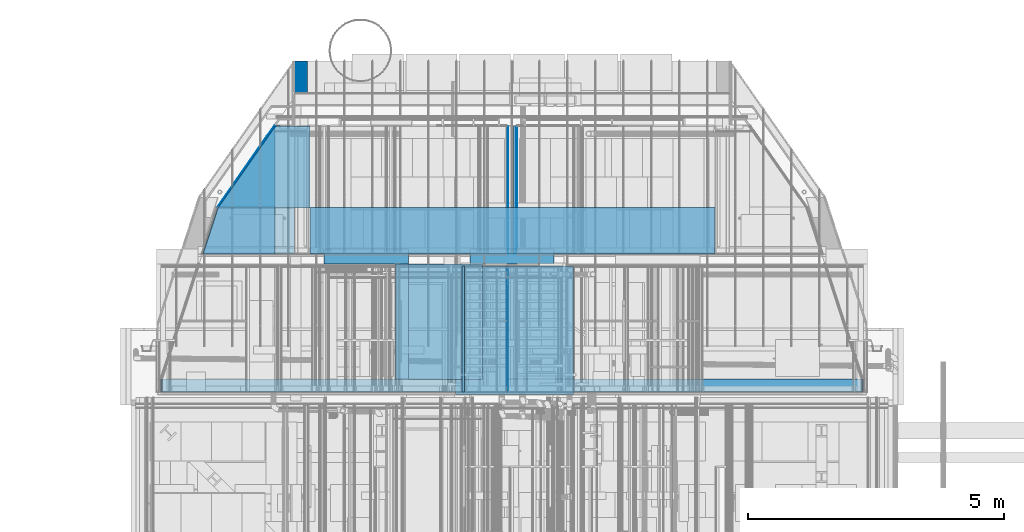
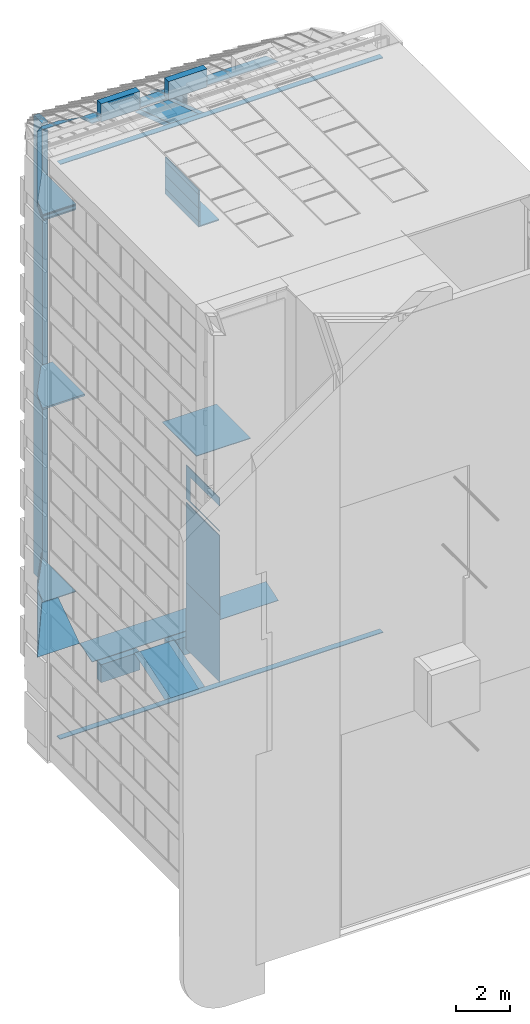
# One storey, part 24 of 583: 46 walls, 3 openings.
"""IFC2X3 building model written with IfcOpenShell, lengths in metres."""

import ifcopenshell
import ifcopenshell.guid

model = None  # the IFC model being written
_history = None  # IfcOwnerHistory: only IFC2X3 demands one
_inside = {}  # id of a spatial element -> (the spatial element, [elements in it])
_under = {}  # id of a project, library or spatial element -> (it, [spatial elements below it])
_declared = {}  # id of a project -> (the project, [libraries it declares])
_typed = {}  # id of a type object -> (the type object, [elements of that type])
_made_of = {}  # id of a material, layer set ... -> (it, [elements and type objects made of it])


def new_model(schema):
    """Start an empty IFC model of exactly this schema.

    Asked for "IFC4X3", IfcOpenShell would pick the latest addendum, in which some entities
    have other attributes; the version numbers below select the first issue.
    IFC2X3 requires an IfcOwnerHistory on every rooted entity: one is made here for all.
    """
    global model, _history
    if schema == "IFC4X3":
        model = ifcopenshell.file(schema_version=(4, 3, 0, 0))
    else:
        model = ifcopenshell.file(schema=schema)
    _inside.clear()
    _under.clear()
    _declared.clear()
    _typed.clear()
    _made_of.clear()
    _history = None
    if model.schema == "IFC2X3":
        org = make("IfcOrganization", Name="unknown")
        user = make(
            "IfcPersonAndOrganization",
            ThePerson=make("IfcPerson", FamilyName="unknown"),
            TheOrganization=org,
        )
        app = make(
            "IfcApplication",
            ApplicationDeveloper=org,
            Version="unknown",
            ApplicationFullName="unknown",
            ApplicationIdentifier="unknown",
        )
        _history = make(
            "IfcOwnerHistory",
            OwningUser=user,
            OwningApplication=app,
            ChangeAction="ADDED",
            CreationDate=0,
        )
    return model


def make(cls, **values):
    """One entity of the class cls with the attributes given. An attribute that is None is left unset."""
    return model.create_entity(
        cls, **{name: value for name, value in values.items() if value is not None}
    )


def entity(cls, *values):
    """Any entity or typed value of the class cls, its attributes in the order of the schema. None: left unset."""
    e = model.create_entity(cls)
    for i, value in enumerate(values):
        if value is not None:
            e[i] = value
    return e


def rooted(cls, **values):
    """An entity with a GlobalId (a new one), such as an element, a storey or a relation."""
    return make(cls, GlobalId=ifcopenshell.guid.new(), OwnerHistory=_history, **values)


def si_unit(unit_type, name, prefix=None):
    """IfcSIUnit, for example si_unit("LENGTHUNIT", "METRE", prefix="MILLI")."""
    return make("IfcSIUnit", UnitType=unit_type, Prefix=prefix, Name=name)


def converted_unit(unit_type, name, factor, base, dimensions=None, offset=None):
    """IfcConversionBasedUnit, such as the inch: factor (a typed value) times the base unit."""
    return make(
        "IfcConversionBasedUnit"
        if offset is None
        else "IfcConversionBasedUnitWithOffset",
        ConversionOffset=offset,
        Dimensions=None
        if dimensions is None
        else entity("IfcDimensionalExponents", *dimensions),
        UnitType=unit_type,
        Name=name,
        ConversionFactor=make(
            "IfcMeasureWithUnit", ValueComponent=factor, UnitComponent=base
        ),
    )


def derived_unit(unit_type, elements):
    """IfcDerivedUnit: a product of units, each with its exponent."""
    return make(
        "IfcDerivedUnit",
        Elements=[
            make("IfcDerivedUnitElement", Unit=unit, Exponent=power)
            for unit, power in elements
        ],
        UnitType=unit_type,
    )


def money_unit(currency):
    """IfcMonetaryUnit."""
    return make("IfcMonetaryUnit", Currency=currency)


def assignment(units):
    """IfcUnitAssignment: the units of a project."""
    return None if units is None else make("IfcUnitAssignment", Units=units)


def point(xyz):
    """IfcCartesianPoint."""
    return None if xyz is None else make("IfcCartesianPoint", Coordinates=xyz)


def direction(xyz):
    """IfcDirection."""
    return None if xyz is None else make("IfcDirection", DirectionRatios=xyz)


def frame(location, z_axis=None, x_axis=None):
    """IfcAxis2Placement3D, a coordinate frame: its origin and axes. An axis left out is left unset."""
    return make(
        "IfcAxis2Placement3D",
        Location=point(location),
        Axis=direction(z_axis),
        RefDirection=direction(x_axis),
    )


def frame_2d(location, x_axis=None):
    """IfcAxis2Placement2D, a coordinate frame in the plane: its origin and x axis."""
    return make(
        "IfcAxis2Placement2D", Location=point(location), RefDirection=direction(x_axis)
    )


def origin_with_axes():
    """The frame at (0, 0, 0) with the z axis (0, 0, 1) and the x axis (1, 0, 0) written out."""
    return frame((0.0, 0.0, 0.0), z_axis=(0.0, 0.0, 1.0), x_axis=(1.0, 0.0, 0.0))


def place(relative_to, where):
    """IfcLocalPlacement: puts the frame where relative to a parent placement (None: the world)."""
    return make(
        "IfcLocalPlacement", PlacementRelTo=relative_to, RelativePlacement=where
    )


def context(
    kind, dimensions, precision=None, world=None, true_north=None, identifier=None
):
    """IfcGeometricRepresentationContext, for example the 3D "Model" context."""
    return make(
        "IfcGeometricRepresentationContext",
        ContextIdentifier=identifier,
        ContextType=kind,
        CoordinateSpaceDimension=dimensions,
        Precision=precision,
        WorldCoordinateSystem=world,
        TrueNorth=true_north,
    )


def subcontext(parent, identifier, kind, view, scale=None):
    """IfcGeometricRepresentationSubContext, for example "Body" below "Model"."""
    return make(
        "IfcGeometricRepresentationSubContext",
        ContextIdentifier=identifier,
        ContextType=kind,
        ParentContext=parent,
        TargetScale=scale,
        TargetView=view,
    )


def project(units=None, contexts=None):
    """IfcProject with its units and contexts."""
    return rooted(
        "IfcProject",
        Name="project",
        RepresentationContexts=contexts,
        UnitsInContext=assignment(units),
    )


def spatial(cls, under=None, at=None, **own):
    """A site, building, storey or space (cls), placed at a placement, below another one or the project."""
    s = rooted(cls, ObjectPlacement=at, **own)
    if under is not None:
        _under.setdefault(under.id(), (under, []))[1].append(s)
    return s


def polyline(points):
    """IfcPolyline through the points."""
    return make("IfcPolyline", Points=[point(p) for p in points])


def profile(cls, at=None, kind="AREA", **sizes):
    """A parametric profile (cls). Its sizes go by their IFC names, for example OverallWidth=200.0."""
    return make(cls, ProfileType=kind, Position=at, **sizes)


def rectangle(**sizes):
    """IfcRectangleProfileDef."""
    return profile("IfcRectangleProfileDef", **sizes)


def outline(outer, holes=None, kind="AREA"):
    """IfcArbitraryClosedProfileDef: a profile drawn as a closed curve; with holes, ...WithVoids."""
    if holes is None:
        return make("IfcArbitraryClosedProfileDef", ProfileType=kind, OuterCurve=outer)
    return make(
        "IfcArbitraryProfileDefWithVoids",
        ProfileType=kind,
        OuterCurve=outer,
        InnerCurves=holes,
    )


def extrude(swept, where, along, depth):
    """IfcExtrudedAreaSolid: the profile swept, set in the frame where, extruded along a direction by depth."""
    return make(
        "IfcExtrudedAreaSolid",
        SweptArea=swept,
        Position=where,
        ExtrudedDirection=direction(along),
        Depth=depth,
    )


def clip(a, b, op="DIFFERENCE"):
    """IfcBooleanClippingResult: the solid a cut by the half space b."""
    return make(
        "IfcBooleanClippingResult", Operator=op, FirstOperand=a, SecondOperand=b
    )


def halfspace(plane, agree):
    """IfcHalfSpaceSolid: all space on one side of the plane z = 0 of the frame plane."""
    return make(
        "IfcHalfSpaceSolid",
        BaseSurface=make("IfcPlane", Position=plane),
        AgreementFlag=agree,
    )


def shape(context_of_items, identifier, shape_type, items):
    """IfcShapeRepresentation: the items that make up one representation, for example the "Body"."""
    return make(
        "IfcShapeRepresentation",
        ContextOfItems=context_of_items,
        RepresentationIdentifier=identifier,
        RepresentationType=shape_type,
        Items=items,
    )


def material(Name=None, Category=None):
    """IfcMaterial."""
    return make("IfcMaterial", Name=Name, Category=Category)


def made_of(thing, what):
    """Note that an element or type object is made of a material, layer set ...; save() writes the relation."""
    if what is not None:
        _made_of.setdefault(what.id(), (what, []))[1].append(thing)
    return thing


def type_object(cls, material=None, **own):
    """A type object (cls), such as IfcWallType, which elements share."""
    return made_of(rooted(cls, **own), material)


def element(
    cls,
    number,
    at=None,
    inside=None,
    cuts=None,
    type_object=None,
    material=None,
    context=None,
    identifier="Body",
    shape_type=None,
    held_by="IfcProductDefinitionShape",
    body=None,
    shapes=None,
    **own,
):
    """One element of the class cls, such as IfcWall. Its Tag is "e" and its number.

    at: its placement. inside: the storey or other place that contains it. cuts: it is an
    opening in that element (IfcRelVoidsElement). A single representation is given by context,
    identifier, shape_type and body (its items); several are given by shapes. held_by: the class
    of the entity that holds the representations. save() writes the other relations.
    """
    e = rooted(cls, Tag="e%d" % number, ObjectPlacement=at, **own)
    if body is not None:
        shapes = [shape(context, identifier, shape_type, body)]
    if shapes is not None:
        e.Representation = make(held_by, Representations=shapes)
    if inside is not None:
        _inside.setdefault(inside.id(), (inside, []))[1].append(e)
    if cuts is not None:
        rooted(
            "IfcRelVoidsElement", RelatingBuildingElement=cuts, RelatedOpeningElement=e
        )
    if type_object is not None:
        _typed.setdefault(type_object.id(), (type_object, []))[1].append(e)
    return made_of(e, material)


def aggregate(whole, parts):
    """IfcRelAggregates: a whole, such as a stair, and the parts it consists of."""
    return rooted("IfcRelAggregates", RelatingObject=whole, RelatedObjects=parts)


def save(model, path):
    """Write the relations noted so far, then the file.

    IfcRelAggregates (storeys below a building ...), IfcRelContainedInSpatialStructure (elements
    in a storey), IfcRelDefinesByType, IfcRelAssociatesMaterial and IfcRelDeclares: one each for
    every whole, place, type object, material and project.
    """
    for whole, parts in _under.values():
        aggregate(whole, parts)
    for where, things in _inside.values():
        rooted(
            "IfcRelContainedInSpatialStructure",
            RelatedElements=things,
            RelatingStructure=where,
        )
    for kind, things in _typed.values():
        rooted("IfcRelDefinesByType", RelatedObjects=things, RelatingType=kind)
    for what, things in _made_of.values():
        rooted("IfcRelAssociatesMaterial", RelatedObjects=things, RelatingMaterial=what)
    for by, libraries in _declared.values():
        rooted("IfcRelDeclares", RelatingContext=by, RelatedDefinitions=libraries)
    model.write(path)


model = new_model("IFC2X3")

# Units and contexts
model_context = context("Model", 3, precision=1e-05, world=origin_with_axes(), true_north=direction((0.0, 1.0)))
body_context = subcontext(model_context, "Body", "Model", "MODEL_VIEW", scale=1.0)
ifc_project = project(units=[si_unit("LENGTHUNIT", "METRE"), si_unit("AREAUNIT", "SQUARE_METRE"), si_unit("VOLUMEUNIT", "CUBIC_METRE"), si_unit("ABSORBEDDOSEUNIT", "GRAY"), si_unit("AMOUNTOFSUBSTANCEUNIT", "MOLE"), si_unit("DOSEEQUIVALENTUNIT", "SIEVERT"), si_unit("ELECTRICCAPACITANCEUNIT", "FARAD"), si_unit("ELECTRICCHARGEUNIT", "COULOMB"), si_unit("ELECTRICCONDUCTANCEUNIT", "SIEMENS"), si_unit("ELECTRICCURRENTUNIT", "AMPERE"), si_unit("ELECTRICRESISTANCEUNIT", "OHM"), si_unit("ELECTRICVOLTAGEUNIT", "VOLT"), si_unit("ENERGYUNIT", "JOULE"), si_unit("FORCEUNIT", "NEWTON"), si_unit("FREQUENCYUNIT", "HERTZ"), si_unit("ILLUMINANCEUNIT", "LUX"), si_unit("INDUCTANCEUNIT", "HENRY"), si_unit("LUMINOUSFLUXUNIT", "LUMEN"), si_unit("LUMINOUSINTENSITYUNIT", "CANDELA"), si_unit("MAGNETICFLUXDENSITYUNIT", "TESLA"), si_unit("MAGNETICFLUXUNIT", "WEBER"), si_unit("MASSUNIT", "GRAM"), converted_unit("PLANEANGLEUNIT", "degree", entity("IfcReal", 0.0174532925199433), si_unit("PLANEANGLEUNIT", "RADIAN"), dimensions=[0, 0, 0, 0, 0, 0, 0]), si_unit("POWERUNIT", "WATT"), si_unit("PRESSUREUNIT", "PASCAL"), si_unit("RADIOACTIVITYUNIT", "BECQUEREL"), si_unit("SOLIDANGLEUNIT", "STERADIAN"), si_unit("THERMODYNAMICTEMPERATUREUNIT", "KELVIN"), si_unit("TIMEUNIT", "SECOND"), derived_unit("ACCELERATIONUNIT", [(si_unit("LENGTHUNIT", "METRE"), 1), (si_unit("TIMEUNIT", "SECOND"), -2)]), derived_unit("ANGULARVELOCITYUNIT", [(converted_unit("PLANEANGLEUNIT", "degree", entity("IfcReal", 0.0174532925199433), si_unit("PLANEANGLEUNIT", "RADIAN"), dimensions=[0, 0, 0, 0, 0, 0, 0]), 1), (si_unit("TIMEUNIT", "SECOND"), -1)]), derived_unit("CURVATUREUNIT", [(converted_unit("PLANEANGLEUNIT", "degree", entity("IfcReal", 0.0174532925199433), si_unit("PLANEANGLEUNIT", "RADIAN"), dimensions=[0, 0, 0, 0, 0, 0, 0]), 1), (si_unit("LENGTHUNIT", "METRE"), -1)]), derived_unit("DYNAMICVISCOSITYUNIT", [(si_unit("PRESSUREUNIT", "PASCAL"), 1), (si_unit("TIMEUNIT", "SECOND"), 1)]), derived_unit("HEATFLUXDENSITYUNIT", [(si_unit("POWERUNIT", "WATT"), 1), (si_unit("LENGTHUNIT", "METRE"), -2)]), derived_unit("HEATINGVALUEUNIT", [(si_unit("ENERGYUNIT", "JOULE"), 1), (si_unit("MASSUNIT", "GRAM"), -1)]), derived_unit("INTEGERCOUNTRATEUNIT", [(si_unit("TIMEUNIT", "SECOND"), -1)]), derived_unit("IONCONCENTRATIONUNIT", [(si_unit("MASSUNIT", "GRAM"), 1), (si_unit("VOLUMEUNIT", "CUBIC_METRE"), -1)]), derived_unit("ISOTHERMALMOISTURECAPACITYUNIT", [(si_unit("VOLUMEUNIT", "CUBIC_METRE"), 1), (si_unit("MASSUNIT", "GRAM"), -1)]), derived_unit("KINEMATICVISCOSITYUNIT", [(si_unit("AREAUNIT", "SQUARE_METRE"), 1), (si_unit("TIMEUNIT", "SECOND"), -1)]), derived_unit("LINEARFORCEUNIT", [(si_unit("FORCEUNIT", "NEWTON"), 1), (si_unit("LENGTHUNIT", "METRE"), -1)]), derived_unit("LINEARMOMENTUNIT", [(si_unit("FORCEUNIT", "NEWTON"), 1), (si_unit("LENGTHUNIT", "METRE"), -1)]), derived_unit("LINEARSTIFFNESSUNIT", [(si_unit("FORCEUNIT", "NEWTON"), 1), (si_unit("LENGTHUNIT", "METRE"), -1)]), derived_unit("LINEARVELOCITYUNIT", [(si_unit("LENGTHUNIT", "METRE"), 1), (si_unit("TIMEUNIT", "SECOND"), -1)]), derived_unit("LUMINOUSINTENSITYDISTRIBUTIONUNIT", [(si_unit("LUMINOUSINTENSITYUNIT", "CANDELA"), 1), (si_unit("LUMINOUSFLUXUNIT", "LUMEN"), -1)]), derived_unit("MASSDENSITYUNIT", [(si_unit("MASSUNIT", "GRAM"), 1), (si_unit("VOLUMEUNIT", "CUBIC_METRE"), -1)]), derived_unit("MASSFLOWRATEUNIT", [(si_unit("MASSUNIT", "GRAM"), 1), (si_unit("TIMEUNIT", "SECOND"), -1)]), derived_unit("MASSPERLENGTHUNIT", [(si_unit("MASSUNIT", "GRAM"), 1), (si_unit("LENGTHUNIT", "METRE"), -1)]), derived_unit("MODULUSOFELASTICITYUNIT", [(si_unit("FORCEUNIT", "NEWTON"), 1), (si_unit("AREAUNIT", "SQUARE_METRE"), -1)]), derived_unit("MODULUSOFLINEARSUBGRADEREACTIONUNIT", [(si_unit("FORCEUNIT", "NEWTON"), 1), (si_unit("LENGTHUNIT", "METRE"), -2)]), derived_unit("MODULUSOFROTATIONALSUBGRADEREACTIONUNIT", [(si_unit("FORCEUNIT", "NEWTON"), 1), (si_unit("LENGTHUNIT", "METRE"), 1)]), derived_unit("MODULUSOFSUBGRADEREACTIONUNIT", [(si_unit("FORCEUNIT", "NEWTON"), 1), (si_unit("VOLUMEUNIT", "CUBIC_METRE"), -1)]), derived_unit("MOISTUREDIFFUSIVITYUNIT", [(si_unit("VOLUMEUNIT", "CUBIC_METRE"), 1), (si_unit("TIMEUNIT", "SECOND"), -1)]), derived_unit("MOLECULARWEIGHTUNIT", [(si_unit("MASSUNIT", "GRAM"), 1), (si_unit("AMOUNTOFSUBSTANCEUNIT", "MOLE"), -1)]), derived_unit("PLANARFORCEUNIT", [(si_unit("FORCEUNIT", "NEWTON"), 1), (si_unit("LENGTHUNIT", "METRE"), -2)]), derived_unit("ROTATIONALFREQUENCYUNIT", [(si_unit("TIMEUNIT", "SECOND"), -1)]), derived_unit("ROTATIONALMASSUNIT", [(si_unit("MASSUNIT", "GRAM"), 1), (si_unit("LENGTHUNIT", "METRE"), 2)]), derived_unit("ROTATIONALSTIFFNESSUNIT", [(si_unit("FORCEUNIT", "NEWTON"), 1), (si_unit("LENGTHUNIT", "METRE"), 1), (converted_unit("PLANEANGLEUNIT", "degree", entity("IfcReal", 0.0174532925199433), si_unit("PLANEANGLEUNIT", "RADIAN"), dimensions=[0, 0, 0, 0, 0, 0, 0]), -1)]), derived_unit("SECTIONAREAINTEGRALUNIT", [(si_unit("LENGTHUNIT", "METRE"), 5)]), derived_unit("SECTIONMODULUSUNIT", [(si_unit("LENGTHUNIT", "METRE"), 3)]), derived_unit("SHEARMODULUSUNIT", [(si_unit("FORCEUNIT", "NEWTON"), 1), (si_unit("AREAUNIT", "SQUARE_METRE"), -1)]), derived_unit("SOUNDPOWERUNIT", [(si_unit("ENERGYUNIT", "JOULE"), 1), (si_unit("TIMEUNIT", "SECOND"), -1)]), derived_unit("SPECIFICHEATCAPACITYUNIT", [(si_unit("FORCEUNIT", "NEWTON"), 1), (si_unit("MASSUNIT", "GRAM"), -1), (si_unit("THERMODYNAMICTEMPERATUREUNIT", "KELVIN"), -1)]), derived_unit("TEMPERATUREGRADIENTUNIT", [(si_unit("THERMODYNAMICTEMPERATUREUNIT", "KELVIN"), 1), (si_unit("LENGTHUNIT", "METRE"), -1)]), derived_unit("THERMALADMITTANCEUNIT", [(si_unit("POWERUNIT", "WATT"), 1), (si_unit("AREAUNIT", "SQUARE_METRE"), -1), (si_unit("THERMODYNAMICTEMPERATUREUNIT", "KELVIN"), -1)]), derived_unit("THERMALCONDUCTANCEUNIT", [(si_unit("POWERUNIT", "WATT"), 1), (si_unit("LENGTHUNIT", "METRE"), -1), (si_unit("THERMODYNAMICTEMPERATUREUNIT", "KELVIN"), -1)]), derived_unit("THERMALEXPANSIONCOEFFICIENTUNIT", [(si_unit("THERMODYNAMICTEMPERATUREUNIT", "KELVIN"), -1)]), derived_unit("THERMALRESISTANCEUNIT", [(si_unit("AREAUNIT", "SQUARE_METRE"), 1), (si_unit("POWERUNIT", "WATT"), -1)]), derived_unit("THERMALTRANSMITTANCEUNIT", [(si_unit("POWERUNIT", "WATT"), 1), (si_unit("AREAUNIT", "SQUARE_METRE"), -1), (si_unit("THERMODYNAMICTEMPERATUREUNIT", "KELVIN"), -1)]), derived_unit("TORQUEUNIT", [(si_unit("FORCEUNIT", "NEWTON"), 1), (si_unit("LENGTHUNIT", "METRE"), 1)]), derived_unit("VAPORPERMEABILITYUNIT", [(si_unit("MASSUNIT", "GRAM"), 1), (si_unit("TIMEUNIT", "SECOND"), -1)]), derived_unit("VOLUMETRICFLOWRATEUNIT", [(si_unit("VOLUMEUNIT", "CUBIC_METRE"), 1), (si_unit("TIMEUNIT", "SECOND"), -1)]), derived_unit("WARPINGCONSTANTUNIT", [(si_unit("LENGTHUNIT", "METRE"), 6)]), derived_unit("WARPINGMOMENTUNIT", [(si_unit("FORCEUNIT", "NEWTON"), 1), (si_unit("LENGTHUNIT", "METRE"), 2)]), money_unit("GBP")], contexts=[model_context])

# Site, building, storey
site_placement = place(None, origin_with_axes())
site = spatial("IfcSite", under=ifc_project, at=site_placement, Name="Site", CompositionType="ELEMENT")
building_placement = place(site_placement, origin_with_axes())
building = spatial("IfcBuilding", under=site, at=building_placement, Name="Building01", CompositionType="ELEMENT")
storey_placement = place(building_placement, frame((0.0, 0.0, 20.78), z_axis=(0.0, 0.0, 1.0), x_axis=(1.0, 0.0, 0.0)))
storey = spatial("IfcBuildingStorey", under=building, at=storey_placement, Name="RL", CompositionType="ELEMENT", Elevation=20.78)

# Walls
ifc_material_1 = material(Name="A_BSUK_Roofs")
wall_type_1 = type_object("IfcWallType", Name="A-Walls-ExternalBlock", PredefinedType="NOTDEFINED")
wall_1_placement = place(storey_placement, frame((8.274915, 17.78, 5.700061), z_axis=(-1.0, 0.0, 0.0), x_axis=(0.0, 0.0, -1.0)))
element("IfcWall", 1, at=wall_1_placement, inside=storey, type_object=wall_type_1, material=ifc_material_1, Name="7C", ObjectType="A-Walls-ExternalBlock", context=body_context, shape_type="SweptSolid", body=[
    extrude(rectangle(XDim=0.81, YDim=0.3, at=frame_2d((0.405, 0.15), x_axis=(1.0, 0.0))), origin_with_axes(), (0.0, 0.0, 1.0), 1.65),
])
wall_2_placement = place(storey_placement, frame((5.424915, 17.779999, 5.700061), z_axis=(-1.0, 0.0, 0.0), x_axis=(0.0, 0.0, -1.0)))
element("IfcWall", 2, at=wall_2_placement, inside=storey, type_object=wall_type_1, material=ifc_material_1, Name="7C", ObjectType="A-Walls-ExternalBlock", context=body_context, shape_type="SweptSolid", body=[
    extrude(rectangle(XDim=0.81, YDim=0.299999, at=frame_2d((0.405, 0.15), x_axis=(1.0, 0.0))), origin_with_axes(), (0.0, 0.0, 1.0), 1.65),
])
for number, where, z_axis, x_axis, name in (
    (3, (8.274915, 17.78, -19.470096), (-1.0, 0.0, 0.0), (0.0, 0.0, -1.0), "7C"),
    (4, (5.424915, 17.779999, -19.470096), (-1.0, 0.0, 0.0), (0.0, 0.0, -1.0), "7C"),
):
    element("IfcWall", number, at=place(storey_placement, frame(where, z_axis=z_axis, x_axis=x_axis)), inside=storey, type_object=wall_type_1, material=ifc_material_1, Name=name, ObjectType="A-Walls-ExternalBlock", context=body_context, shape_type="SweptSolid", body=[
        extrude(rectangle(XDim=0.81, YDim=0.3, at=frame_2d((0.405, 0.15), x_axis=(1.0, 0.0))), origin_with_axes(), (0.0, 0.0, 1.0), 1.65),
    ])
wall_3_placement = place(storey_placement, frame((3.449939, 20.818, 3.000061), z_axis=(0.0, 1.0, 0.0), x_axis=(0.0, 0.0, -1.0)))
element("IfcWall", 5, at=wall_3_placement, inside=storey, type_object=wall_type_1, material=ifc_material_1, Name="A-Walls-ExternalBlock", ObjectType="A-Walls-ExternalBlock", context=body_context, shape_type="SweptSolid", body=[
    extrude(rectangle(XDim=20.580061, YDim=0.25, at=frame_2d((10.29003, 0.125), x_axis=(-1.0, 0.0))), origin_with_axes(), (0.0, 0.0, 1.0), 0.637),
])
ifc_material_2 = material(Name="A_BSUK_WallsInternal")
wall_type_2 = type_object("IfcWallType", Name="A-Walls-Internal", PredefinedType="NOTDEFINED")
wall_4_placement = place(storey_placement, frame((6.624965, 15.23, -20.2012), z_axis=(0.0, 0.95105652, 0.30901699), x_axis=(-1.0, 0.0, 0.0)))
element("IfcWall", 6, at=wall_4_placement, inside=storey, type_object=wall_type_2, material=ifc_material_2, Name="7C", ObjectType="A-Walls-Internal", context=body_context, shape_type="SweptSolid", body=[
    extrude(rectangle(XDim=1.20005, YDim=0.015, at=frame_2d((0.600025, 0.0075), x_axis=(-1.0, 0.0))), origin_with_axes(), (0.0, 0.0, 1.0), 2.373987),
])
wall_5_placement = place(storey_placement, frame((6.624964, 15.23, 5.6212), z_axis=(0.0, 0.95105652, -0.30901699), x_axis=(-1.0, 0.0, 0.0)))
element("IfcWall", 7, at=wall_5_placement, inside=storey, type_object=wall_type_2, material=ifc_material_2, Name="7C", ObjectType="A-Walls-Internal", context=body_context, shape_type="SweptSolid", body=[
    extrude(rectangle(XDim=1.200049, YDim=0.015, at=frame_2d((0.600024, -0.0075), x_axis=(-1.0, 0.0))), origin_with_axes(), (0.0, 0.0, 1.0), 2.373987),
])
wall_6_placement = place(storey_placement, frame((7.334915, 14.98, 0.73844), z_axis=(0.0, 1.0, 0.0), x_axis=(-1.0, 0.0, 0.0)))
element("IfcWall", 8, at=wall_6_placement, inside=storey, type_object=wall_type_2, material=ifc_material_2, Name="A-Walls-Internal", ObjectType="A-Walls-Internal", context=body_context, shape_type="SweptSolid", body=[
    extrude(outline(polyline([(0.81483, 0.05), (0.0, 0.05), (0.0, 0.0), (0.86483, 0.0), (0.81483, 0.05)])), origin_with_axes(), (0.0, 0.0, 1.0), 2.468),
])
wall_7_placement = place(storey_placement, frame((6.470085, 14.98, 0.73844), z_axis=(0.0, 1.0, 0.0), x_axis=(0.0, 0.0, 1.0)))
element("IfcWall", 9, at=wall_7_placement, inside=storey, type_object=wall_type_2, material=ifc_material_2, Name="A-Walls-Internal", ObjectType="A-Walls-Internal", context=body_context, shape_type="SweptSolid", body=[
    extrude(outline(polyline([(0.05, 0.05), (0.0, 0.0), (0.255191, 0.0), (0.255191, 0.05), (0.05, 0.05)])), origin_with_axes(), (0.0, 0.0, 1.0), 2.468),
])
for number, where, z_axis, x_axis, name in (
    (10, (6.470085, 14.98, 0.993631), (0.0, 1.0, 0.0), (0.0, 0.0, 1.0), "A-Walls-Internal"),
    (11, (6.470085, 14.98, 1.593631), (0.0, 1.0, 0.0), (0.0, 0.0, 1.0), "A-Walls-Internal"),
):
    element("IfcWall", number, at=place(storey_placement, frame(where, z_axis=z_axis, x_axis=x_axis)), inside=storey, type_object=wall_type_2, material=ifc_material_2, Name=name, ObjectType="A-Walls-Internal", context=body_context, shape_type="SweptSolid", body=[
        extrude(rectangle(XDim=0.6, YDim=0.05, at=frame_2d((0.3, 0.025), x_axis=(1.0, 0.0))), origin_with_axes(), (0.0, 0.0, 1.0), 2.468),
    ])
wall_8_placement = place(storey_placement, frame((6.470085, 14.98, 2.193631), z_axis=(0.0, 1.0, 0.0), x_axis=(0.0, 0.0, 1.0)))
element("IfcWall", 12, at=wall_8_placement, inside=storey, type_object=wall_type_2, material=ifc_material_2, Name="A-Walls-Internal", ObjectType="A-Walls-Internal", context=body_context, shape_type="SweptSolid", body=[
    extrude(rectangle(XDim=0.205191, YDim=0.05, at=frame_2d((0.102595, 0.025), x_axis=(-1.0, 0.0))), origin_with_axes(), (0.0, 0.0, 1.0), 2.468),
])
wall_9_placement = place(storey_placement, frame((6.624964, 15.229557, 5.605572), z_axis=(0.0, 0.95105652, -0.30901699), x_axis=(-1.0, 0.0, 0.0)))
element("IfcWall", 13, at=wall_9_placement, inside=storey, type_object=wall_type_2, material=ifc_material_2, Name="7C", ObjectType="A-Walls-Internal", context=body_context, shape_type="SweptSolid", body=[
    extrude(outline(polyline([(1.200049, 0.0), (0.0, 0.0), (-0.25, -0.015), (1.450049, -0.015), (1.200049, 0.0)])), origin_with_axes(), (0.0, 0.0, 1.0), 2.373987),
])
wall_10_placement = place(storey_placement, frame((6.624965, 15.229557, -20.185572), z_axis=(0.0, 0.95105652, 0.30901699), x_axis=(-1.0, 0.0, 0.0)))
element("IfcWall", 14, at=wall_10_placement, inside=storey, type_object=wall_type_2, material=ifc_material_2, Name="7C", ObjectType="A-Walls-Internal", context=body_context, shape_type="SweptSolid", body=[
    extrude(outline(polyline([(1.45005, 0.015), (-0.25, 0.015), (0.0, 0.0), (1.20005, 0.0), (1.45005, 0.015)])), origin_with_axes(), (0.0, 0.0, 1.0), 2.373987),
])
wall_11_placement = place(storey_placement, frame((14.3212, 14.98, -20.2012), z_axis=(0.0, 1.0, 0.0), x_axis=(-1.0, 0.0, 0.0)))
element("IfcWall", 15, at=wall_11_placement, inside=storey, type_object=wall_type_2, material=ifc_material_2, Name="7C", ObjectType="A-Walls-Internal", context=body_context, shape_type="SweptSolid", body=[
    extrude(rectangle(XDim=13.7424, YDim=0.015, at=frame_2d((6.8712, 0.0075), x_axis=(-1.0, 0.0))), origin_with_axes(), (0.0, 0.0, 1.0), 0.25),
])
wall_12_placement = place(storey_placement, frame((14.3062, 14.98, 5.6212), z_axis=(0.0, 1.0, 0.0), x_axis=(-1.0, 0.0, 0.0)))
element("IfcWall", 16, at=wall_12_placement, inside=storey, type_object=wall_type_2, material=ifc_material_2, Name="7C", ObjectType="A-Walls-Internal", context=body_context, shape_type="SweptSolid", body=[
    extrude(rectangle(XDim=13.7124, YDim=0.015, at=frame_2d((6.8562, -0.0075), x_axis=(-1.0, 0.0))), origin_with_axes(), (0.0, 0.0, 1.0), 0.25),
])
wall_13_placement = place(storey_placement, frame((14.3062, 14.98, -20.1862), z_axis=(0.0, 1.0, 0.0), x_axis=(-1.0, 0.0, 0.0)))
element("IfcWall", 17, at=wall_13_placement, inside=storey, type_object=wall_type_2, material=ifc_material_2, Name="7C", ObjectType="A-Walls-Internal", context=body_context, shape_type="SweptSolid", body=[
    extrude(rectangle(XDim=13.7124, YDim=0.015, at=frame_2d((6.8562, 0.0075), x_axis=(-1.0, 0.0))), origin_with_axes(), (0.0, 0.0, 1.0), 0.25),
])
wall_14_placement = place(storey_placement, frame((14.2912, 14.98, 5.6062), z_axis=(0.0, 1.0, 0.0), x_axis=(-1.0, 0.0, 0.0)))
element("IfcWall", 18, at=wall_14_placement, inside=storey, type_object=wall_type_2, material=ifc_material_2, Name="7C", ObjectType="A-Walls-Internal", context=body_context, shape_type="SweptSolid", body=[
    extrude(rectangle(XDim=13.6824, YDim=0.015, at=frame_2d((6.8412, -0.0075), x_axis=(-1.0, 0.0))), origin_with_axes(), (0.0, 0.0, 1.0), 0.25),
])
for number, where, z_axis, x_axis, name in (
    (19, (8.65, 14.93, -9.48), (0.0, 1.0, 0.0), (-1.0, 0.0, 0.0), "A-Walls-Internal"),
    (20, (8.65, 14.93, -9.465), (0.0, 1.0, 0.0), (-1.0, 0.0, 0.0), "A-Walls-Internal"),
):
    element("IfcWall", number, at=place(storey_placement, frame(where, z_axis=z_axis, x_axis=x_axis)), inside=storey, type_object=wall_type_2, material=ifc_material_2, Name=name, ObjectType="A-Walls-Internal", context=body_context, shape_type="SweptSolid", body=[
        extrude(rectangle(XDim=2.3, YDim=0.015, at=frame_2d((1.15, 0.0075), x_axis=(-1.0, 0.0))), origin_with_axes(), (0.0, 0.0, 1.0), 2.518),
    ])
wall_15_placement = place(storey_placement, frame((3.499939, 17.68, -19.380471), z_axis=(0.0, 0.95105669, 0.30901647), x_axis=(1.0, 0.0, 0.0)))
element("IfcWall", 21, at=wall_15_placement, inside=storey, type_object=wall_type_2, material=ifc_material_2, Name="7C", ObjectType="A-Walls-Internal", context=body_context, shape_type="SweptSolid", body=[
    extrude(rectangle(XDim=7.915923, YDim=0.015, at=frame_2d((3.957962, 0.0075), x_axis=(1.0, 0.0))), origin_with_axes(), (0.0, 0.0, 1.0), 0.955),
])
wall_16_placement = place(storey_placement, frame((1.695959, 18.588254, -19.084043), z_axis=(0.0, 0.81915311, 0.57357491), x_axis=(1.0, 0.0, 0.0)))
element("IfcWall", 22, at=wall_16_placement, inside=storey, type_object=wall_type_2, material=ifc_material_2, Name="7C", ObjectType="A-Walls-Internal", context=body_context, shape_type="Clipping", body=[
    clip(extrude(outline(polyline([(-0.012287, 0.015), (0.0, 0.0), (1.80398, 0.0), (1.80398, 0.015), (-0.012287, 0.015)])), origin_with_axes(), (0.0, 0.0, 1.0), 1.943), halfspace(frame((0.0, 0.0, 0.0), z_axis=(0.70710678, 0.57922872, -0.40557871), x_axis=(-0.63368777, 0.77358892, 0.0)), True)),
])
wall_17_placement = place(storey_placement, frame((1.695959, 18.588254, -15.719976), z_axis=(0.57357491, 0.81915311, 0.0), x_axis=(0.0, 0.0, -1.0)))
element("IfcWall", 23, at=wall_17_placement, inside=storey, type_object=wall_type_2, material=ifc_material_2, Name="7C", ObjectType="A-Walls-Internal", context=body_context, shape_type="Clipping", body=[
    clip(extrude(outline(polyline([(3.376355, 0.015), (0.0, 0.015), (0.0, 0.0), (3.364068, 0.0), (3.376355, 0.015)])), origin_with_axes(), (0.0, 0.0, 1.0), 1.943), halfspace(frame((1.682034, -1.377843, 0.964772), z_axis=(-0.70710678, 0.57922872, -0.40557871), x_axis=(-0.63368777, -0.77358892, 0.0)), True)),
])
wall_18_placement = place(storey_placement, frame((3.499939, 17.675383, -19.3662), z_axis=(0.0, 0.95105669, 0.30901647), x_axis=(1.0, 0.0, 0.0)))
element("IfcWall", 24, at=wall_18_placement, inside=storey, type_object=wall_type_2, material=ifc_material_2, Name="7C", ObjectType="A-Walls-Internal", context=body_context, shape_type="SweptSolid", body=[
    extrude(rectangle(XDim=7.915923, YDim=0.015, at=frame_2d((3.957962, 0.0075), x_axis=(1.0, 0.0))), origin_with_axes(), (0.0, 0.0, 1.0), 0.955014),
])
wall_19_placement = place(storey_placement, frame((1.708246, 18.579651, -15.719976), z_axis=(0.57357491, 0.81915311, 0.0), x_axis=(0.0, 0.0, -1.0)))
element("IfcWall", 25, at=wall_19_placement, inside=storey, type_object=wall_type_2, material=ifc_material_2, Name="7C", ObjectType="A-Walls-Internal", context=body_context, shape_type="Clipping", body=[
    clip(extrude(outline(polyline([(3.364068, 0.015), (0.0, 0.015), (0.0, 0.0), (3.35178, 0.0), (3.364068, 0.015)])), origin_with_axes(), (0.0, 0.0, 1.0), 1.943037), halfspace(frame((1.67589, -1.372811, 0.961249), z_axis=(-0.70710678, 0.57922872, -0.40557871), x_axis=(-0.63368777, -0.77358892, 0.0)), True)),
])
wall_20_placement = place(storey_placement, frame((1.712289, 18.579651, -19.071756), z_axis=(0.0, 0.81915311, 0.57357491), x_axis=(1.0, 0.0, 0.0)))
element("IfcWall", 26, at=wall_20_placement, inside=storey, type_object=wall_type_2, material=ifc_material_2, Name="7C", ObjectType="A-Walls-Internal", context=body_context, shape_type="Clipping", body=[
    clip(extrude(outline(polyline([(-0.01633, 0.015), (-0.004042, 0.0), (1.787651, 0.0), (1.787651, 0.015), (-0.01633, 0.015)])), origin_with_axes(), (0.0, 0.0, 1.0), 1.943037), halfspace(frame((-0.002021, -0.001656, 0.001159), z_axis=(0.70710678, 0.57922872, -0.40557871), x_axis=(-0.63368777, 0.77358892, 0.0)), True)),
])
wall_21_placement = place(storey_placement, frame((3.499939, 17.68, 4.800471), z_axis=(0.0, 0.95105669, -0.30901647), x_axis=(-1.0, 0.0, 0.0)))
element("IfcWall", 27, at=wall_21_placement, inside=storey, type_object=wall_type_2, material=ifc_material_2, Name="7C", ObjectType="A-Walls-Internal", context=body_context, shape_type="SweptSolid", body=[
    extrude(rectangle(XDim=7.915923, YDim=0.015, at=frame_2d((-3.957962, 0.0075), x_axis=(-1.0, 0.0))), origin_with_axes(), (0.0, 0.0, 1.0), 0.955),
])
wall_22_placement = place(storey_placement, frame((1.695959, 18.588254, 4.504043), z_axis=(0.0, 0.81915311, -0.57357491), x_axis=(-1.0, 0.0, 0.0)))
element("IfcWall", 28, at=wall_22_placement, inside=storey, type_object=wall_type_2, material=ifc_material_2, Name="7C", ObjectType="A-Walls-Internal", context=body_context, shape_type="Clipping", body=[
    clip(extrude(outline(polyline([(0.0, 0.0), (0.012287, 0.015), (-1.80398, 0.015), (-1.80398, 0.0), (0.0, 0.0)])), origin_with_axes(), (0.0, 0.0, 1.0), 1.943), halfspace(frame((0.0, 0.0, 0.0), z_axis=(-0.70710678, 0.57922872, -0.40557871), x_axis=(-0.63368777, -0.77358892, 0.0)), True)),
])

# Wall, opening
wall_23_placement = place(storey_placement, frame((1.695959, 18.588254, 1.139976), z_axis=(0.57357491, 0.81915311, 0.0), x_axis=(0.0, 0.0, 1.0)))
wall_23 = element("IfcWall", 29, at=wall_23_placement, inside=storey, type_object=wall_type_2, material=ifc_material_2, Name="7C", ObjectType="A-Walls-Internal", context=body_context, shape_type="Clipping", body=[
    clip(extrude(outline(polyline([(3.364068, 0.0), (0.0, 0.0), (0.0, -0.015), (3.376355, -0.015), (3.364068, 0.0)])), origin_with_axes(), (0.0, 0.0, 1.0), 1.943), halfspace(frame((1.682034, 1.377843, 0.964772), z_axis=(-0.70710678, -0.57922872, -0.40557871), x_axis=(0.63368777, -0.77358892, 0.0)), True)),
])
opening_1_placement = place(wall_23_placement, frame((-2.08, -0.015, 1.684641), z_axis=(0.0, 0.0, 1.0), x_axis=(1.0, 0.0, 0.0)))
element("IfcOpeningElement", 30, at=opening_1_placement, cuts=wall_23, Name="Opening", ObjectType="Opening", context=body_context, shape_type="SweptSolid", body=[
    extrude(rectangle(XDim=2.1, YDim=0.958898, at=frame_2d((-1.05, 0.479449), x_axis=(1.0, 0.0))), frame((0.0, 0.0, 0.0), z_axis=(0.0, 1.0, 0.0), x_axis=(-1.0, 0.0, 0.0)), (0.0, -0.81915311, 0.57357491), 0.026152),
])

# Wall
wall_24_placement = place(storey_placement, frame((3.499939, 17.675383, 4.7862), z_axis=(0.0, 0.95105669, -0.30901647), x_axis=(-1.0, 0.0, 0.0)))
element("IfcWall", 31, at=wall_24_placement, inside=storey, type_object=wall_type_2, material=ifc_material_2, Name="7C", ObjectType="A-Walls-Internal", context=body_context, shape_type="SweptSolid", body=[
    extrude(rectangle(XDim=7.915923, YDim=0.015, at=frame_2d((-3.957962, 0.0075), x_axis=(-1.0, 0.0))), origin_with_axes(), (0.0, 0.0, 1.0), 0.955014),
])

# Wall, opening
wall_25_placement = place(storey_placement, frame((1.708246, 18.579651, 1.139976), z_axis=(0.57357491, 0.81915311, 0.0), x_axis=(0.0, 0.0, 1.0)))
wall_25 = element("IfcWall", 32, at=wall_25_placement, inside=storey, type_object=wall_type_2, material=ifc_material_2, Name="7C", ObjectType="A-Walls-Internal", context=body_context, shape_type="Clipping", body=[
    clip(extrude(outline(polyline([(3.35178, 0.0), (0.0, 0.0), (0.0, -0.015), (3.364068, -0.015), (3.35178, 0.0)])), origin_with_axes(), (0.0, 0.0, 1.0), 1.943037), halfspace(frame((1.67589, 1.372811, 0.961249), z_axis=(-0.70710678, -0.57922872, -0.40557871), x_axis=(0.63368777, -0.77358892, 0.0)), True)),
])
opening_2_placement = place(wall_25_placement, frame((-2.08, -0.015, 1.663219), z_axis=(0.0, 0.0, 1.0), x_axis=(1.0, 0.0, 0.0)))
element("IfcOpeningElement", 33, at=opening_2_placement, cuts=wall_25, Name="Opening", ObjectType="Opening", context=body_context, shape_type="SweptSolid", body=[
    extrude(rectangle(XDim=2.1, YDim=0.958898, at=frame_2d((-1.05, 0.479449), x_axis=(1.0, 0.0))), frame((0.0, 0.0, 0.0), z_axis=(0.0, 1.0, 0.0), x_axis=(-1.0, 0.0, 0.0)), (0.0, -0.81915311, 0.57357491), 0.026152),
])

# Wall
wall_26_placement = place(storey_placement, frame((1.712289, 18.579651, 4.491756), z_axis=(0.0, 0.81915311, -0.57357491), x_axis=(-1.0, 0.0, 0.0)))
element("IfcWall", 34, at=wall_26_placement, inside=storey, type_object=wall_type_2, material=ifc_material_2, Name="7C", ObjectType="A-Walls-Internal", context=body_context, shape_type="Clipping", body=[
    clip(extrude(outline(polyline([(0.004042, 0.0), (0.01633, 0.015), (-1.787651, 0.015), (-1.787651, 0.0), (0.004042, 0.0)])), origin_with_axes(), (0.0, 0.0, 1.0), 1.943037), halfspace(frame((0.002021, -0.001656, 0.001159), z_axis=(-0.70710678, 0.57922872, -0.40557871), x_axis=(-0.63368777, -0.77358892, 0.0)), True)),
])

# Wall, opening
ifc_material_3 = material(Name="A_BSUK_WallInternal_Finishes_Plasterboard")
wall_type_3 = type_object("IfcWallType", Name="default", PredefinedType="NOTDEFINED")
wall_27_placement = place(storey_placement, frame((7.364939, 14.98, -11.705), z_axis=(0.0, 1.0, 0.0), x_axis=(0.0, 0.0, -1.0)))
wall_27 = element("IfcWall", 35, at=wall_27_placement, inside=storey, type_object=wall_type_3, material=ifc_material_3, Name="default", ObjectType="default", context=body_context, shape_type="SweptSolid", body=[
    extrude(outline(polyline([(1.53, 0.015), (0.015, 0.015), (0.0, 0.0), (1.53, 0.0), (1.53, 0.015)])), origin_with_axes(), (0.0, 0.0, 1.0), 2.468),
])
opening_3_placement = place(wall_27_placement, frame((0.389, 0.015, 0.0), z_axis=(0.0, 0.0, 1.0), x_axis=(1.0, 0.0, 0.0)))
element("IfcOpeningElement", 36, at=opening_3_placement, cuts=wall_27, Name="Opening", ObjectType="Opening", context=body_context, shape_type="SweptSolid", body=[
    extrude(rectangle(XDim=2.142, YDim=1.084, at=frame_2d((0.542, 1.071), x_axis=(0.0, -1.0))), frame((0.0, 0.0, 0.0), z_axis=(0.0, -1.0, 0.0), x_axis=(1.0, 0.0, 0.0)), (0.0, 0.0, 1.0), 0.015),
])

# Walls
wall_28_placement = place(storey_placement, frame((7.364939, 14.98, -13.42), z_axis=(0.0, 1.0, 0.0), x_axis=(0.0, 0.0, -1.0)))
element("IfcWall", 37, at=wall_28_placement, inside=storey, type_object=wall_type_3, material=ifc_material_3, Name="default", ObjectType="default", context=body_context, shape_type="SweptSolid", body=[
    extrude(outline(polyline([(3.564889, 0.015), (0.0, 0.015), (0.0, 0.0), (3.579889, 0.0), (3.564889, 0.015)])), origin_with_axes(), (0.0, 0.0, 1.0), 2.468),
])
wall_29_placement = place(storey_placement, frame((7.379939, 14.98, -13.405), z_axis=(0.0, 1.0, 0.0), x_axis=(0.0, 0.0, -1.0)))
element("IfcWall", 38, at=wall_29_placement, inside=storey, type_object=wall_type_3, material=ifc_material_3, Name="default", ObjectType="default", context=body_context, shape_type="SweptSolid", body=[
    extrude(rectangle(XDim=6.595061, YDim=0.015, at=frame_2d((3.29753, 0.0075), x_axis=(-1.0, 0.0))), origin_with_axes(), (0.0, 0.0, 1.0), 2.468),
])
ifc_material_4 = material(Name="A_BSUK_Insulation")
wall_type_4 = type_object("IfcWallType", Name="A-Walls:A_BSUK_Insulation", PredefinedType="NOTDEFINED")
wall_30_placement = place(storey_placement, frame((7.474939, 17.68, 4.790961), z_axis=(-1.0, 0.0, 0.0), x_axis=(0.0, 0.95105669, -0.30901647)))
element("IfcWall", 39, at=wall_30_placement, inside=storey, type_object=wall_type_4, material=ifc_material_4, Name="A-Walls--A_BSUK_Insulation", ObjectType="A-Walls:A_BSUK_Insulation", context=body_context, shape_type="SweptSolid", body=[
    extrude(outline(polyline([(0.0, 0.0), (0.954995, 0.0), (2.813096, 0.568076), (0.435579, 1.340576), (0.0, 0.0)])), origin_with_axes(), (0.0, 0.0, 1.0), 0.05),
])
wall_31_placement = place(storey_placement, frame((2.818607, 17.68, 1.364976), z_axis=(0.0, 0.0, 1.0), x_axis=(0.0, 1.0, 0.0)))
element("IfcWall", 40, at=wall_31_placement, inside=storey, type_object=wall_type_4, material=ifc_material_4, Name="A-Walls--A_BSUK_Insulation", ObjectType="A-Walls:A_BSUK_Insulation", context=body_context, shape_type="SweptSolid", body=[
    extrude(outline(polyline([(0.0, 0.0), (-2.5, 0.0), (-0.908259, 1.114455), (0.0, 1.409565), (0.0, 0.0)])), frame((0.0, 0.0, 0.0), z_axis=(0.0, 0.0, -1.0), x_axis=(-1.0, 0.0, 0.0)), (0.0, 0.0, 1.0), 0.14),
])
for number, where, z_axis, x_axis, name in (
    (41, (2.818607, 17.68, 1.429976), (0.0, 0.0, 1.0), (0.0, 1.0, 0.0), "A-Walls--A_BSUK_Insulation"),
    (42, (2.818607, 17.68, -15.949976), (0.0, 0.0, 1.0), (0.0, 1.0, 0.0), "A-Walls--A_BSUK_Insulation"),
):
    element("IfcWall", number, at=place(storey_placement, frame(where, z_axis=z_axis, x_axis=x_axis)), inside=storey, type_object=wall_type_4, material=ifc_material_4, Name=name, ObjectType="A-Walls:A_BSUK_Insulation", context=body_context, shape_type="SweptSolid", body=[
        extrude(outline(polyline([(0.0, 0.0), (-2.5, 0.0), (-0.908259, 1.114455), (0.0, 1.409565), (0.0, 0.0)])), frame((0.0, 0.0, 0.0), z_axis=(0.0, 0.0, -1.0), x_axis=(-1.0, 0.0, 0.0)), (0.0, 0.0, 1.0), 0.04),
    ])
ifc_material_5 = material(Name="A_BSUK_WallsExternal_Block")
wall_type_5 = type_object("IfcWallType", Name="A-Walls:A_BSUK_WallsExternal_Block", PredefinedType="NOTDEFINED")
wall_32_placement = place(storey_placement, frame((3.199939, 17.68, -7.2409), z_axis=(0.0, 0.0, 1.0), x_axis=(0.0, 1.0, 0.0)))
element("IfcWall", 43, at=wall_32_placement, inside=storey, type_object=wall_type_5, material=ifc_material_5, Name="A-Walls--A_BSUK_WallsExternal_Block", ObjectType="A-Walls:A_BSUK_WallsExternal_Block", context=body_context, shape_type="SweptSolid", body=[
    extrude(outline(polyline([(0.0, 0.0), (-2.4, 0.0), (-2.4, 0.482167), (-0.908259, 1.511589), (0.0, 1.8067), (0.0, 0.0)])), frame((0.0, 0.0, 0.0), z_axis=(0.0, 0.0, -1.0), x_axis=(-1.0, 0.0, 0.0)), (0.0, 0.0, 1.0), 0.078453),
])
wall_type_6 = type_object("IfcWallType", Name="A-Walls:A_BSUK_WallInternal_Finishes_Plasterboard", PredefinedType="NOTDEFINED")
for number, where, z_axis, x_axis, name in (
    (44, (7.534939, 17.68, 4.790961), (-1.0, 0.0, 0.0), (0.0, 0.95105669, -0.30901647), "A-Walls--A_BSUK_WallInternal_Finishes_Plasterboard"),
    (45, (7.549939, 17.68, 4.790961), (-1.0, 0.0, 0.0), (0.0, 0.95105669, -0.30901647), "A-Walls--A_BSUK_WallInternal_Finishes_Plasterboard"),
    (46, (7.379939, 17.68, 4.790961), (-1.0, 0.0, 0.0), (0.0, 0.95105669, -0.30901647), "A-Walls--A_BSUK_WallInternal_Finishes_Plasterboard"),
):
    element("IfcWall", number, at=place(storey_placement, frame(where, z_axis=z_axis, x_axis=x_axis)), inside=storey, type_object=wall_type_6, material=ifc_material_3, Name=name, ObjectType="A-Walls:A_BSUK_WallInternal_Finishes_Plasterboard", context=body_context, shape_type="SweptSolid", body=[
        extrude(outline(polyline([(0.0, 0.0), (0.954995, 0.0), (2.813096, 0.568076), (0.435579, 1.340576), (0.0, 0.0)])), origin_with_axes(), (0.0, 0.0, 1.0), 0.015),
    ])
wall_33_placement = place(storey_placement, frame((2.818607, 17.68, 1.439976), z_axis=(0.0, 0.0, 1.0), x_axis=(0.0, 1.0, 0.0)))
element("IfcWall", 47, at=wall_33_placement, inside=storey, type_object=wall_type_6, material=ifc_material_3, Name="A-Walls--A_BSUK_WallInternal_Finishes_Plasterboard", ObjectType="A-Walls:A_BSUK_WallInternal_Finishes_Plasterboard", context=body_context, shape_type="SweptSolid", body=[
    extrude(outline(polyline([(0.0, 0.0), (-2.5, 0.0), (-0.908259, 1.114455), (0.0, 1.409565), (0.0, 0.0)])), frame((0.0, 0.0, 0.0), z_axis=(0.0, 0.0, -1.0), x_axis=(-1.0, 0.0, 0.0)), (0.0, 0.0, 1.0), 0.01),
])
ifc_material_6 = material(Name="A_BSUK_WallInternal_Finishes_Metal")
wall_type_7 = type_object("IfcWallType", Name="A-Walls:A_BSUK_WallInternal_Finishes_Metal", PredefinedType="NOTDEFINED")
wall_34_placement = place(storey_placement, frame((2.818607, 17.68, 1.164976), z_axis=(0.0, 0.0, 1.0), x_axis=(0.0, 1.0, 0.0)))
element("IfcWall", 48, at=wall_34_placement, inside=storey, type_object=wall_type_7, material=ifc_material_6, Name="A-Walls--A_BSUK_WallInternal_Finishes_Metal", ObjectType="A-Walls:A_BSUK_WallInternal_Finishes_Metal", context=body_context, shape_type="SweptSolid", body=[
    extrude(outline(polyline([(0.0, 0.0), (-2.5, 0.0), (-0.908259, 1.114455), (0.0, 1.409565), (0.0, 0.0)])), frame((0.0, 0.0, 0.0), z_axis=(0.0, 0.0, -1.0), x_axis=(-1.0, 0.0, 0.0)), (0.0, 0.0, 1.0), 0.005),
])
ifc_material_7 = material(Name="A_BSUK_Walls_Timber")
wall_type_8 = type_object("IfcWallType", Name="A-Walls:A_BSUK_Walls_Timber", PredefinedType="NOTDEFINED")
wall_35_placement = place(storey_placement, frame((2.818607, 17.68, 1.224976), z_axis=(0.0, 0.0, 1.0), x_axis=(0.0, 1.0, 0.0)))
element("IfcWall", 49, at=wall_35_placement, inside=storey, type_object=wall_type_8, material=ifc_material_7, Name="A-Walls--A_BSUK_Walls_Timber", ObjectType="A-Walls:A_BSUK_Walls_Timber", context=body_context, shape_type="SweptSolid", body=[
    extrude(outline(polyline([(0.0, 0.0), (-2.5, 0.0), (-0.908259, 1.114455), (0.0, 1.409565), (0.0, 0.0)])), frame((0.0, 0.0, 0.0), z_axis=(0.0, 0.0, -1.0), x_axis=(-1.0, 0.0, 0.0)), (0.0, 0.0, 1.0), 0.01),
])

save(model, "model.ifc")
